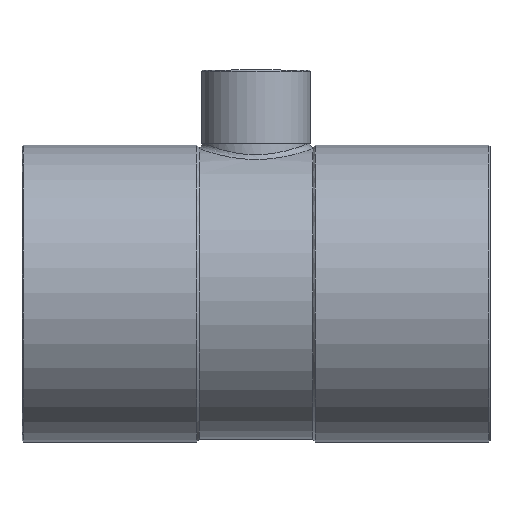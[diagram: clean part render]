
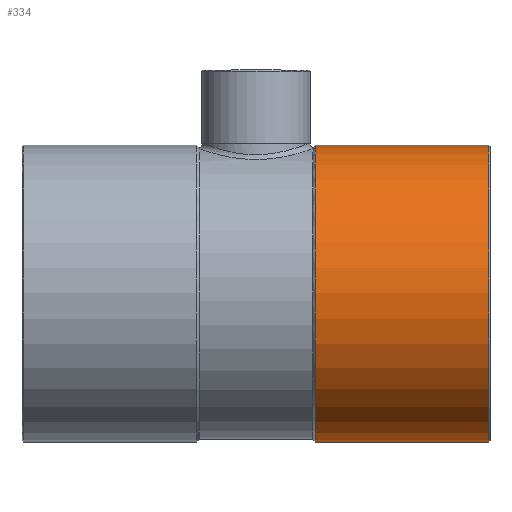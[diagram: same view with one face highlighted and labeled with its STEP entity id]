
A CAD part, top view. The second image highlights one B-rep face of the part: STEP entity #334.
In plain terms, the highlighted cylindrical face has radius 28.525 mm (diameter 57.05 mm), a partial arc.
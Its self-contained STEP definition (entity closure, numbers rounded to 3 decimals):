
#293=CARTESIAN_POINT('',(28.2,0.0,0.0));
#294=DIRECTION('',(1.0,0.0,0.0));
#295=DIRECTION('',(0.0,1.0,0.0));
#296=AXIS2_PLACEMENT_3D('',#293,#294,#295);
#297=CYLINDRICAL_SURFACE('',#296,28.525);
#298=CARTESIAN_POINT('',(11.399,28.525,0.0));
#299=VERTEX_POINT('',#298);
#300=CARTESIAN_POINT('',(44.8,28.525,0.));
#301=VERTEX_POINT('',#300);
#302=CARTESIAN_POINT('',(11.399,28.525,0.0));
#303=DIRECTION('',(1.0,0.0,0.0));
#304=VECTOR('',#303,33.401);
#305=LINE('',#302,#304);
#306=EDGE_CURVE('',#299,#301,#305,.T.);
#307=ORIENTED_EDGE('',*,*,#306,.F.);
#308=CARTESIAN_POINT('',(11.399,-28.525,0.));
#309=VERTEX_POINT('',#308);
#310=CARTESIAN_POINT('',(11.399,0.0,0.0));
#311=DIRECTION('',(1.0,0.0,0.0));
#312=DIRECTION('',(0.0,1.0,0.0));
#313=AXIS2_PLACEMENT_3D('',#310,#311,#312);
#314=CIRCLE('',#313,28.525);
#315=EDGE_CURVE('',#299,#309,#314,.T.);
#316=ORIENTED_EDGE('',*,*,#315,.T.);
#317=CARTESIAN_POINT('',(44.8,-28.525,0.));
#318=VERTEX_POINT('',#317);
#319=CARTESIAN_POINT('',(44.8,-28.525,0.));
#320=DIRECTION('',(-1.0,0.0,0.0));
#321=VECTOR('',#320,33.401);
#322=LINE('',#319,#321);
#323=EDGE_CURVE('',#318,#309,#322,.T.);
#324=ORIENTED_EDGE('',*,*,#323,.F.);
#325=CARTESIAN_POINT('',(44.8,0.0,0.0));
#326=DIRECTION('',(1.0,0.0,0.0));
#327=DIRECTION('',(0.0,-1.0,0.0));
#328=AXIS2_PLACEMENT_3D('',#325,#326,#327);
#329=CIRCLE('',#328,28.525);
#330=EDGE_CURVE('',#301,#318,#329,.T.);
#331=ORIENTED_EDGE('',*,*,#330,.F.);
#332=EDGE_LOOP('',(#307,#316,#324,#331));
#333=FACE_OUTER_BOUND('',#332,.T.);
#334=ADVANCED_FACE('',(#333),#297,.T.);
